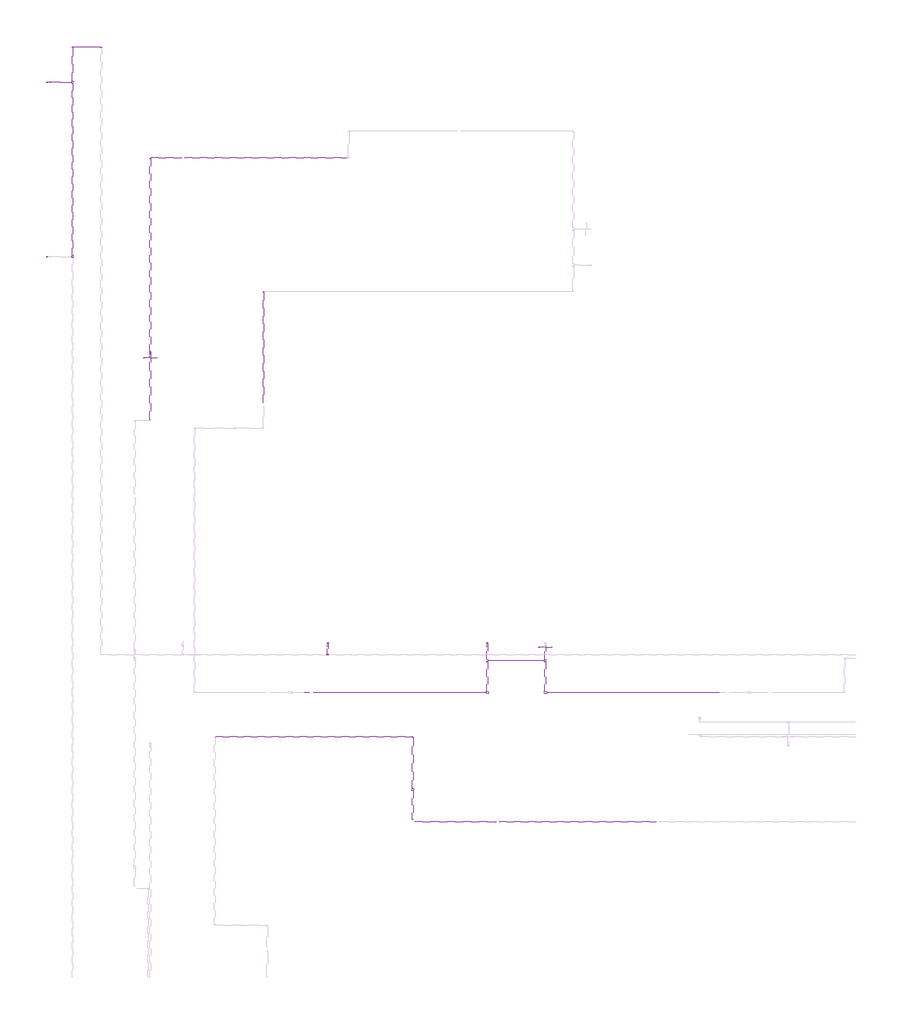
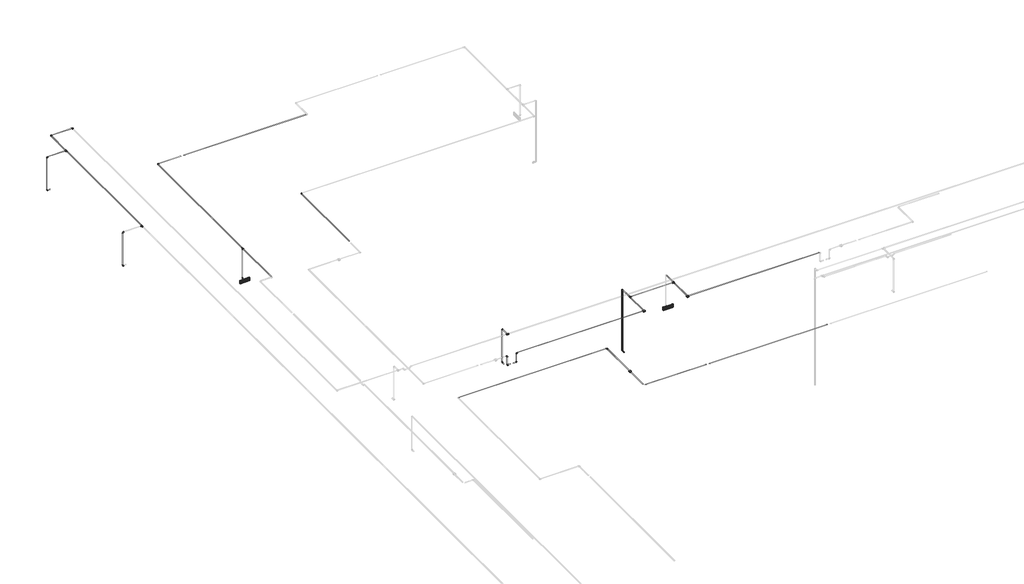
# One storey, part 5 of 13: 35 cable carrier segments, 24 cable carrier fittings, 5 alarms.
"""IFC4 building model written with IfcOpenShell, lengths in millimetres."""

from ifc_helpers import new_model, si_unit, point, frame, frame_2d, origin, place, context, project, spatial, circle_curve, trimmed, segment, composite_curve, outline, extrude, transform, mapped, element, save
from components import alarm_4b7e8fd8, alarm_a2247946, cable_carrier_fitting_69f1a801, cable_carrier_fitting_8fd13dfc

model = new_model("IFC4")

# Units and contexts
model_context = context("Model", 3, world=origin())
ifc_project = project(units=[si_unit("LENGTHUNIT", "METRE", prefix="MILLI")], contexts=[model_context])

# Site, building, storey
site = spatial("IfcSite", under=ifc_project)
building = spatial("IfcBuilding", under=site)
storey = spatial("IfcBuildingStorey", under=building, Name="2 этаж", Elevation=3500.0)

# Alarms
placement = place(None, origin())
alarm_shape = alarm_4b7e8fd8(model_context)
element("IfcAlarm", 1, ObjectType="RBZ_Оповещатель_Световой_Рубеж_ОПОП1-R3(грань) : ОПОП 1-R3 \"Выход\"", at=placement, inside=storey, context=model_context, shape_type="MappedRepresentation", body=[
    mapped(alarm_shape, transform((-26367.3240021, 6224.6370105, 6000.0), x_axis=(1.0, 0.0, 0.0), y_axis=(0.0, 0.0, 1.0), z_axis=(0.0, -1.0, 0.0))),
])
element("IfcAlarm", 2, ObjectType="RBZ_Оповещатель_Световой_Рубеж_ОПОП1-R3(грань) : ОПОП 1-R3 \"Выход\"", at=placement, inside=storey, context=model_context, shape_type="MappedRepresentation", body=[
    mapped(alarm_shape, transform((-35529.8240021, 12944.6370105, 6000.0), x_axis=(1.0, 0.0, 0.0), y_axis=(0.0, 0.0, 1.0), z_axis=(0.0, -1.0, 0.0))),
])
alarm_2_shape = alarm_a2247946(model_context)
element("IfcAlarm", 3, ObjectType="RBZ_ИзоляторШлейфа_Рубеж_ИЗ-1_прот.R3(плоскость) : ИЗ-1 прот.R3", at=placement, inside=storey, context=model_context, shape_type="MappedRepresentation", body=[
    mapped(alarm_2_shape, transform((-29443.3240021, 2912.1370105, 6997.7), x_axis=(1.0, 0.0, 0.0), y_axis=(0.0, 1.0, 0.0), z_axis=(0.0, 0.0, 1.0))),
])
element("IfcAlarm", 4, ObjectType="RBZ_ИзоляторШлейфа_Рубеж_ИЗ-1_прот.R3(плоскость) : ИЗ-1 прот.R3", at=placement, inside=storey, context=model_context, shape_type="MappedRepresentation", body=[
    mapped(alarm_2_shape, transform((-27718.2686424, 5164.6370105, 6997.7), x_axis=(1.0, 0.0, 0.0), y_axis=(0.0, 1.0, 0.0), z_axis=(0.0, 0.0, 1.0))),
])
element("IfcAlarm", 5, ObjectType="RBZ_ИзоляторШлейфа_Рубеж_ИЗ-1_прот.R3(плоскость) : ИЗ-1 прот.R3", at=placement, inside=storey, context=model_context, shape_type="MappedRepresentation", body=[
    mapped(alarm_2_shape, transform((-26367.3240021, 5164.6370105, 6997.7), x_axis=(1.0, 0.0, 0.0), y_axis=(0.0, 1.0, 0.0), z_axis=(0.0, 0.0, 1.0))),
])

# Cable carrier fittings
cable_carrier_fitting_shape = cable_carrier_fitting_69f1a801(model_context)
element("IfcCableCarrierFitting", 6, ObjectType="ADSK_Поворот_Минимальный размер : Неспецифицируемый", at=placement, inside=storey, context=model_context, shape_type="MappedRepresentation", body=[
    mapped(cable_carrier_fitting_shape, transform((-35529.8240021, 17569.6370105, 6986.95), x_axis=(-1.0, 0.0, 0.0), y_axis=(0.0, -1.0, 0.0), z_axis=(0.0, 0.0, 1.0))),
])
element("IfcCableCarrierFitting", 7, ObjectType="ADSK_Поворот_Минимальный размер : Неспецифицируемый", at=placement, inside=storey, context=model_context, shape_type="MappedRepresentation", body=[
    mapped(cable_carrier_fitting_shape, transform((-32907.3240021, 14465.9311629, 6986.95), x_axis=(-1.0, 0.0, 0.0), y_axis=(0.0, -1.0, 0.0), z_axis=(0.0, 0.0, 1.0))),
])
element("IfcCableCarrierFitting", 8, ObjectType="ADSK_Поворот_Минимальный размер : Неспецифицируемый", at=placement, inside=storey, context=model_context, shape_type="MappedRepresentation", body=[
    mapped(cable_carrier_fitting_shape, transform((-29443.3240021, 4135.4271104, 6986.95), x_axis=(0.0, 1.0, 0.0), y_axis=(-1.0, 0.0, 0.0), z_axis=(0.0, 0.0, 1.0))),
])
element("IfcCableCarrierFitting", 9, ObjectType="ADSK_Поворот_Минимальный размер : Неспецифицируемый", at=placement, inside=storey, context=model_context, shape_type="MappedRepresentation", body=[
    mapped(cable_carrier_fitting_shape, transform((-31926.5002231, 5164.6370105, 6691.5753772), x_axis=(-1.0, 0.0, 0.0), y_axis=(0.0, 0.0, 1.0), z_axis=(0.0, 1.0, 0.0))),
])
element("IfcCableCarrierFitting", 10, ObjectType="ADSK_Поворот_Минимальный размер : Неспецифицируемый", at=placement, inside=storey, context=model_context, shape_type="MappedRepresentation", body=[
    mapped(cable_carrier_fitting_shape, transform((-31926.5002231, 5164.6370105, 6986.95), x_axis=(0.0, 0.0, 1.0), y_axis=(-1.0, 0.0, 0.0), z_axis=(0.0, -1.0, 0.0))),
])
element("IfcCableCarrierFitting", 11, ObjectType="ADSK_Поворот_Минимальный размер : Неспецифицируемый", at=placement, inside=storey, context=model_context, shape_type="MappedRepresentation", body=[
    mapped(cable_carrier_fitting_shape, transform((-31639.1006119, 5164.6370105, 6691.5753772), x_axis=(1.0, 0.0, 0.0), y_axis=(0.0, 0.0, 1.0), z_axis=(0.0, -1.0, 0.0))),
])
element("IfcCableCarrierFitting", 12, ObjectType="ADSK_Поворот_Минимальный размер : Неспецифицируемый", at=placement, inside=storey, context=model_context, shape_type="MappedRepresentation", body=[
    mapped(cable_carrier_fitting_shape, transform((-31639.1006119, 5164.6370105, 6986.95), x_axis=(0.0, 0.0, 1.0), y_axis=(1.0, 0.0, 0.0), z_axis=(0.0, 1.0, 0.0))),
])
element("IfcCableCarrierFitting", 13, ObjectType="ADSK_Поворот_Минимальный размер : Неспецифицируемый", at=placement, inside=storey, context=model_context, shape_type="MappedRepresentation", body=[
    mapped(cable_carrier_fitting_shape, transform((-37337.3240021, 20139.6370105, 6990.0), x_axis=(-1.0, 0.0, 0.0), y_axis=(0.0, -1.0, 0.0), z_axis=(0.0, 0.0, 1.0))),
])
element("IfcCableCarrierFitting", 14, ObjectType="ADSK_Поворот_Минимальный размер : Неспецифицируемый", at=placement, inside=storey, context=model_context, shape_type="MappedRepresentation", body=[
    mapped(cable_carrier_fitting_shape, transform((-36669.8240021, 20139.6370105, 6990.0), x_axis=(0.0, 1.0, 0.0), y_axis=(-1.0, 0.0, 0.0), z_axis=(0.0, 0.0, 1.0))),
])
element("IfcCableCarrierFitting", 15, ObjectType="ADSK_Поворот_Минимальный размер : Неспецифицируемый", at=placement, inside=storey, context=model_context, shape_type="MappedRepresentation", body=[
    mapped(cable_carrier_fitting_shape, transform((-37929.5238077, 15277.1370105, 5897.4861504), x_axis=(-1.0, 0.0, 0.0), y_axis=(0.0, 0.0, 1.0), z_axis=(0.0, 1.0, 0.0))),
])
element("IfcCableCarrierFitting", 16, ObjectType="ADSK_Поворот_Минимальный размер : Неспецифицируемый", at=placement, inside=storey, context=model_context, shape_type="MappedRepresentation", body=[
    mapped(cable_carrier_fitting_shape, transform((-37929.5238077, 15277.1370105, 6990.0), x_axis=(0.0, 0.0, 1.0), y_axis=(1.0, 0.0, 0.0), z_axis=(0.0, 1.0, 0.0))),
])
element("IfcCableCarrierFitting", 17, ObjectType="ADSK_Поворот_Минимальный размер : Неспецифицируемый", at=placement, inside=storey, context=model_context, shape_type="MappedRepresentation", body=[
    mapped(cable_carrier_fitting_shape, transform((-37929.5238077, 19319.6370105, 5897.4861504), x_axis=(-1.0, 0.0, 0.0), y_axis=(0.0, 0.0, 1.0), z_axis=(0.0, 1.0, 0.0))),
])
element("IfcCableCarrierFitting", 18, ObjectType="ADSK_Поворот_Минимальный размер : Неспецифицируемый", at=placement, inside=storey, context=model_context, shape_type="MappedRepresentation", body=[
    mapped(cable_carrier_fitting_shape, transform((-37929.5238077, 19319.6370105, 6990.0), x_axis=(0.0, 0.0, 1.0), y_axis=(1.0, 0.0, 0.0), z_axis=(0.0, 1.0, 0.0))),
])
element("IfcCableCarrierFitting", 19, ObjectType="ADSK_Поворот_Минимальный размер : Неспецифицируемый", at=placement, inside=storey, context=model_context, shape_type="MappedRepresentation", body=[
    mapped(cable_carrier_fitting_shape, transform((-31412.3240021, 6321.8368161, 5897.4861504), x_axis=(0.0, 1.0, 0.0), y_axis=(0.0, 0.0, 1.0), z_axis=(1.0, 0.0, 0.0))),
])
element("IfcCableCarrierFitting", 20, ObjectType="ADSK_Поворот_Минимальный размер : Неспецифицируемый", at=placement, inside=storey, context=model_context, shape_type="MappedRepresentation", body=[
    mapped(cable_carrier_fitting_shape, transform((-31412.3240021, 6321.8368161, 6990.0), x_axis=(0.0, 0.0, 1.0), y_axis=(0.0, -1.0, 0.0), z_axis=(1.0, 0.0, 0.0))),
])
element("IfcCableCarrierFitting", 21, ObjectType="ADSK_Поворот_Минимальный размер : Неспецифицируемый", at=placement, inside=storey, context=model_context, shape_type="MappedRepresentation", body=[
    mapped(cable_carrier_fitting_shape, transform((-27718.2686424, 6321.8368161, 5000.0), x_axis=(0.0, 1.0, 0.0), y_axis=(0.0, 0.0, 1.0), z_axis=(1.0, 0.0, 0.0))),
])
element("IfcCableCarrierFitting", 22, ObjectType="ADSK_Поворот_Минимальный размер : Неспецифицируемый", at=placement, inside=storey, context=model_context, shape_type="MappedRepresentation", body=[
    mapped(cable_carrier_fitting_shape, transform((-27718.2686424, 6321.8368161, 6986.95), x_axis=(0.0, 0.0, 1.0), y_axis=(0.0, -1.0, 0.0), z_axis=(1.0, 0.0, 0.0))),
])
element("IfcCableCarrierFitting", 23, ObjectType="ADSK_Поворот_Минимальный размер : Неспецифицируемый", at=placement, inside=storey, context=model_context, shape_type="MappedRepresentation", body=[
    mapped(cable_carrier_fitting_shape, transform((-35529.8240021, 13041.8368161, 6000.0), x_axis=(0.0, 1.0, 0.0), y_axis=(0.0, 0.0, 1.0), z_axis=(1.0, 0.0, 0.0))),
])
cable_carrier_fitting_2_shape = cable_carrier_fitting_8fd13dfc(model_context)
element("IfcCableCarrierFitting", 24, ObjectType="ADSK_Тройник : ПВХ", at=placement, inside=storey, context=model_context, shape_type="MappedRepresentation", body=[
    mapped(cable_carrier_fitting_2_shape, transform((-27718.2686424, 5907.6135901, 6986.95), x_axis=(0.0, 1.0, 0.0), y_axis=(-1.0, 0.0, 0.0), z_axis=(0.0, 0.0, 1.0))),
])
element("IfcCableCarrierFitting", 25, ObjectType="ADSK_Тройник : ПВХ", at=placement, inside=storey, context=model_context, shape_type="MappedRepresentation", body=[
    mapped(cable_carrier_fitting_2_shape, transform((-26367.3240021, 5907.6135901, 6986.95), x_axis=(0.0, -1.0, 0.0), y_axis=(1.0, 0.0, 0.0), z_axis=(0.0, 0.0, 1.0))),
])
element("IfcCableCarrierFitting", 26, ObjectType="ADSK_Тройник : ПВХ", at=placement, inside=storey, context=model_context, shape_type="MappedRepresentation", body=[
    mapped(cable_carrier_fitting_2_shape, transform((-37337.3240021, 15277.1370105, 6990.0), x_axis=(0.0, -1.0, 0.0), y_axis=(1.0, 0.0, 0.0), z_axis=(0.0, 0.0, 1.0))),
])
element("IfcCableCarrierFitting", 27, ObjectType="ADSK_Тройник : ПВХ", at=placement, inside=storey, context=model_context, shape_type="MappedRepresentation", body=[
    mapped(cable_carrier_fitting_2_shape, transform((-37337.3240021, 19319.6370105, 6990.0), x_axis=(0.0, -1.0, 0.0), y_axis=(1.0, 0.0, 0.0), z_axis=(0.0, 0.0, 1.0))),
])
element("IfcCableCarrierFitting", 28, ObjectType="ADSK_Тройник : ПВХ", at=placement, inside=storey, context=model_context, shape_type="MappedRepresentation", body=[
    mapped(cable_carrier_fitting_2_shape, transform((-31412.3240021, 6037.6221207, 6990.0), x_axis=(-1.0, 0.0, 0.0), y_axis=(0.0, -1.0, 0.0), z_axis=(0.0, 0.0, 1.0))),
])
element("IfcCableCarrierFitting", 29, ObjectType="ADSK_Тройник : ПВХ", at=placement, inside=storey, context=model_context, shape_type="MappedRepresentation", body=[
    mapped(cable_carrier_fitting_2_shape, transform((-35529.8240021, 13041.8368161, 6986.95), x_axis=(0.0, 1.0, 0.0), y_axis=(0.0, 0.0, 1.0), z_axis=(1.0, 0.0, 0.0))),
])

# Cable carrier segments
element("IfcCableCarrierSegment", 30, ObjectType="Гофрированная труба", at=placement, inside=storey, context=model_context, shape_type="SweptSolid", body=[
    extrude(outline(composite_curve([segment(trimmed(circle_curve(frame_2d((6986.95, -29443.3240021)), 10.0), [point((6986.95, -29433.3240021))], [point((6996.95, -29443.3240021))], False, "CARTESIAN"), True, "CONTINUOUS"), segment(trimmed(circle_curve(frame_2d((6986.95, -29443.3240021)), 10.0), [point((6996.95, -29443.3240021))], [point((6986.95, -29453.3240021))], False, "CARTESIAN"), True, "CONTINUOUS"), segment(trimmed(circle_curve(frame_2d((6986.95, -29443.3240021)), 10.0), [point((6986.95, -29453.3240021))], [point((6976.95, -29443.3240021))], False, "CARTESIAN"), True, "CONTINUOUS"), segment(trimmed(circle_curve(frame_2d((6986.95, -29443.3240021)), 10.0), [point((6976.95, -29443.3240021))], [point((6986.95, -29433.3240021))], False, "CARTESIAN"), True, "CONTINUOUS")], self_intersect=False)), frame((0.0, 2938.1370105, 0.0), z_axis=(0.0, 1.0, 0.0), x_axis=(0.0, 0.0, 1.0)), (0.0, 0.0, 1.0), 1176.2900999),
])
element("IfcCableCarrierSegment", 31, ObjectType="Гофрированная труба", at=placement, inside=storey, context=model_context, shape_type="SweptSolid", body=[
    extrude(outline(composite_curve([segment(trimmed(circle_curve(frame_2d((6986.95, -29443.3240021)), 10.0), [point((6986.95, -29433.3240021))], [point((6996.95, -29443.3240021))], False, "CARTESIAN"), True, "CONTINUOUS"), segment(trimmed(circle_curve(frame_2d((6986.95, -29443.3240021)), 10.0), [point((6996.95, -29443.3240021))], [point((6986.95, -29453.3240021))], False, "CARTESIAN"), True, "CONTINUOUS"), segment(trimmed(circle_curve(frame_2d((6986.95, -29443.3240021)), 10.0), [point((6986.95, -29453.3240021))], [point((6976.95, -29443.3240021))], False, "CARTESIAN"), True, "CONTINUOUS"), segment(trimmed(circle_curve(frame_2d((6986.95, -29443.3240021)), 10.0), [point((6976.95, -29443.3240021))], [point((6986.95, -29433.3240021))], False, "CARTESIAN"), True, "CONTINUOUS")], self_intersect=False)), frame((0.0, 2211.1370105, 0.0), z_axis=(0.0, 1.0, 0.0), x_axis=(0.0, 0.0, 1.0)), (0.0, 0.0, 1.0), 675.0),
])
element("IfcCableCarrierSegment", 32, ObjectType="Гофрированная труба", at=placement, inside=storey, context=model_context, shape_type="SweptSolid", body=[
    extrude(outline(composite_curve([segment(trimmed(circle_curve(frame_2d((2164.6370105, 6986.95)), 10.0), [point((2174.6370105, 6986.95))], [point((2164.6370105, 6976.95))], False, "CARTESIAN"), True, "CONTINUOUS"), segment(trimmed(circle_curve(frame_2d((2164.6370105, 6986.95)), 10.0), [point((2164.6370105, 6976.95))], [point((2154.6370105, 6986.95))], False, "CARTESIAN"), True, "CONTINUOUS"), segment(trimmed(circle_curve(frame_2d((2164.6370105, 6986.95)), 10.0), [point((2154.6370105, 6986.95))], [point((2164.6370105, 6996.95))], False, "CARTESIAN"), True, "CONTINUOUS"), segment(trimmed(circle_curve(frame_2d((2164.6370105, 6986.95)), 10.0), [point((2164.6370105, 6996.95))], [point((2174.6370105, 6986.95))], False, "CARTESIAN"), True, "CONTINUOUS")], self_intersect=False)), frame((-29396.8240021, 0.0, 0.0), z_axis=(1.0, 0.0, 0.0), x_axis=(0.0, 1.0, 0.0)), (0.0, 0.0, 1.0), 1873.0),
])
element("IfcCableCarrierSegment", 33, ObjectType="Гофрированная труба", at=placement, inside=storey, context=model_context, shape_type="SweptSolid", body=[
    extrude(outline(composite_curve([segment(trimmed(circle_curve(frame_2d((2164.6370105, 6986.95)), 10.0), [point((2174.6370105, 6986.95))], [point((2164.6370105, 6976.95))], False, "CARTESIAN"), True, "CONTINUOUS"), segment(trimmed(circle_curve(frame_2d((2164.6370105, 6986.95)), 10.0), [point((2164.6370105, 6976.95))], [point((2154.6370105, 6986.95))], False, "CARTESIAN"), True, "CONTINUOUS"), segment(trimmed(circle_curve(frame_2d((2164.6370105, 6986.95)), 10.0), [point((2154.6370105, 6986.95))], [point((2164.6370105, 6996.95))], False, "CARTESIAN"), True, "CONTINUOUS"), segment(trimmed(circle_curve(frame_2d((2164.6370105, 6986.95)), 10.0), [point((2164.6370105, 6996.95))], [point((2174.6370105, 6986.95))], False, "CARTESIAN"), True, "CONTINUOUS")], self_intersect=False)), frame((-27430.8240021, 0.0, 0.0), z_axis=(1.0, 0.0, 0.0), x_axis=(0.0, 1.0, 0.0)), (0.0, 0.0, 1.0), 3632.0),
])
element("IfcCableCarrierSegment", 34, ObjectType="Гофрированная труба", at=placement, inside=storey, context=model_context, shape_type="SweptSolid", body=[
    extrude(outline(composite_curve([segment(trimmed(circle_curve(frame_2d((17569.6370105, 6986.95)), 10.0), [point((17559.6370105, 6986.95))], [point((17569.6370105, 6996.95))], False, "CARTESIAN"), True, "CONTINUOUS"), segment(trimmed(circle_curve(frame_2d((17569.6370105, 6986.95)), 10.0), [point((17569.6370105, 6996.95))], [point((17579.6370105, 6986.95))], False, "CARTESIAN"), True, "CONTINUOUS"), segment(trimmed(circle_curve(frame_2d((17569.6370105, 6986.95)), 10.0), [point((17579.6370105, 6986.95))], [point((17569.6370105, 6976.95))], False, "CARTESIAN"), True, "CONTINUOUS"), segment(trimmed(circle_curve(frame_2d((17569.6370105, 6986.95)), 10.0), [point((17569.6370105, 6976.95))], [point((17559.6370105, 6986.95))], False, "CARTESIAN"), True, "CONTINUOUS")], self_intersect=False)), frame((-35508.8240021, 0.0, 0.0), z_axis=(1.0, 0.0, 0.0), x_axis=(0.0, 1.0, 0.0)), (0.0, 0.0, 1.0), 690.0),
])
element("IfcCableCarrierSegment", 35, ObjectType="Гофрированная труба", at=placement, inside=storey, context=model_context, shape_type="SweptSolid", body=[
    extrude(outline(composite_curve([segment(trimmed(circle_curve(frame_2d((17569.6370105, 6986.95)), 10.0), [point((17559.6370105, 6986.95))], [point((17569.6370105, 6996.95))], False, "CARTESIAN"), True, "CONTINUOUS"), segment(trimmed(circle_curve(frame_2d((17569.6370105, 6986.95)), 10.0), [point((17569.6370105, 6996.95))], [point((17579.6370105, 6986.95))], False, "CARTESIAN"), True, "CONTINUOUS"), segment(trimmed(circle_curve(frame_2d((17569.6370105, 6986.95)), 10.0), [point((17579.6370105, 6986.95))], [point((17569.6370105, 6976.95))], False, "CARTESIAN"), True, "CONTINUOUS"), segment(trimmed(circle_curve(frame_2d((17569.6370105, 6986.95)), 10.0), [point((17569.6370105, 6976.95))], [point((17559.6370105, 6986.95))], False, "CARTESIAN"), True, "CONTINUOUS")], self_intersect=False)), frame((-34725.8240021, 0.0, 0.0), z_axis=(1.0, 0.0, 0.0), x_axis=(0.0, 1.0, 0.0)), (0.0, 0.0, 1.0), 3779.0),
])
element("IfcCableCarrierSegment", 36, ObjectType="Гофрированная труба", at=placement, inside=storey, context=model_context, shape_type="SweptSolid", body=[
    extrude(outline(composite_curve([segment(trimmed(circle_curve(frame_2d((6986.95, -32907.3240021)), 10.0), [point((6986.95, -32897.3240021))], [point((6996.95, -32907.3240021))], False, "CARTESIAN"), True, "CONTINUOUS"), segment(trimmed(circle_curve(frame_2d((6986.95, -32907.3240021)), 10.0), [point((6996.95, -32907.3240021))], [point((6986.95, -32917.3240021))], False, "CARTESIAN"), True, "CONTINUOUS"), segment(trimmed(circle_curve(frame_2d((6986.95, -32907.3240021)), 10.0), [point((6986.95, -32917.3240021))], [point((6976.95, -32907.3240021))], False, "CARTESIAN"), True, "CONTINUOUS"), segment(trimmed(circle_curve(frame_2d((6986.95, -32907.3240021)), 10.0), [point((6976.95, -32907.3240021))], [point((6986.95, -32897.3240021))], False, "CARTESIAN"), True, "CONTINUOUS")], self_intersect=False)), frame((0.0, 11891.1370105, 0.0), z_axis=(0.0, 1.0, 0.0), x_axis=(0.0, 0.0, 1.0)), (0.0, 0.0, 1.0), 2553.7941524),
])
element("IfcCableCarrierSegment", 37, ObjectType="Гофрированная труба", at=placement, inside=storey, context=model_context, shape_type="SweptSolid", body=[
    extrude(outline(composite_curve([segment(trimmed(circle_curve(frame_2d((4135.4271104, 6986.95)), 10.0), [point((4145.4271104, 6986.95))], [point((4135.4271104, 6976.95))], False, "CARTESIAN"), True, "CONTINUOUS"), segment(trimmed(circle_curve(frame_2d((4135.4271104, 6986.95)), 10.0), [point((4135.4271104, 6976.95))], [point((4125.4271104, 6986.95))], False, "CARTESIAN"), True, "CONTINUOUS"), segment(trimmed(circle_curve(frame_2d((4135.4271104, 6986.95)), 10.0), [point((4125.4271104, 6986.95))], [point((4135.4271104, 6996.95))], False, "CARTESIAN"), True, "CONTINUOUS"), segment(trimmed(circle_curve(frame_2d((4135.4271104, 6986.95)), 10.0), [point((4135.4271104, 6996.95))], [point((4145.4271104, 6986.95))], False, "CARTESIAN"), True, "CONTINUOUS")], self_intersect=False)), frame((-34016.3240021, 0.0, 0.0), z_axis=(1.0, 0.0, 0.0), x_axis=(0.0, 1.0, 0.0)), (0.0, 0.0, 1.0), 4552.0),
])
element("IfcCableCarrierSegment", 38, ObjectType="Гофрированная труба", at=placement, inside=storey, context=model_context, shape_type="SweptSolid", body=[
    extrude(outline(composite_curve([segment(trimmed(circle_curve(frame_2d((5164.6370105, 6691.5753772)), 10.0), [point((5174.6370105, 6691.5753772))], [point((5164.6370105, 6681.5753772))], False, "CARTESIAN"), True, "CONTINUOUS"), segment(trimmed(circle_curve(frame_2d((5164.6370105, 6691.5753772)), 10.0), [point((5164.6370105, 6681.5753772))], [point((5154.6370105, 6691.5753772))], False, "CARTESIAN"), True, "CONTINUOUS"), segment(trimmed(circle_curve(frame_2d((5164.6370105, 6691.5753772)), 10.0), [point((5154.6370105, 6691.5753772))], [point((5164.6370105, 6701.5753772))], False, "CARTESIAN"), True, "CONTINUOUS"), segment(trimmed(circle_curve(frame_2d((5164.6370105, 6691.5753772)), 10.0), [point((5164.6370105, 6701.5753772))], [point((5174.6370105, 6691.5753772))], False, "CARTESIAN"), True, "CONTINUOUS")], self_intersect=False)), frame((-31905.5002231, 0.0, 0.0), z_axis=(1.0, 0.0, 0.0), x_axis=(0.0, 1.0, 0.0)), (0.0, 0.0, 1.0), 76.1998056),
])
element("IfcCableCarrierSegment", 39, ObjectType="Гофрированная труба", at=placement, inside=storey, context=model_context, shape_type="SweptSolid", body=[
    extrude(outline(composite_curve([segment(trimmed(circle_curve(frame_2d((-31926.5002231, 5164.6370105)), 10.0), [point((-31936.5002231, 5164.6370105))], [point((-31926.5002231, 5174.6370105))], False, "CARTESIAN"), True, "CONTINUOUS"), segment(trimmed(circle_curve(frame_2d((-31926.5002231, 5164.6370105)), 10.0), [point((-31926.5002231, 5174.6370105))], [point((-31916.5002231, 5164.6370105))], False, "CARTESIAN"), True, "CONTINUOUS"), segment(trimmed(circle_curve(frame_2d((-31926.5002231, 5164.6370105)), 10.0), [point((-31916.5002231, 5164.6370105))], [point((-31926.5002231, 5154.6370105))], False, "CARTESIAN"), True, "CONTINUOUS"), segment(trimmed(circle_curve(frame_2d((-31926.5002231, 5164.6370105)), 10.0), [point((-31926.5002231, 5154.6370105))], [point((-31936.5002231, 5164.6370105))], False, "CARTESIAN"), True, "CONTINUOUS")], self_intersect=False)), frame((0.0, 0.0, 6712.5753772), z_axis=(0.0, 0.0, 1.0), x_axis=(1.0, 0.0, 0.0)), (0.0, 0.0, 1.0), 253.3746228),
])
element("IfcCableCarrierSegment", 40, ObjectType="Гофрированная труба", at=placement, inside=storey, context=model_context, shape_type="SweptSolid", body=[
    extrude(outline(composite_curve([segment(trimmed(circle_curve(frame_2d((5164.6370105, 6986.95)), 10.0), [point((5154.6370105, 6986.95))], [point((5164.6370105, 6996.95))], False, "CARTESIAN"), True, "CONTINUOUS"), segment(trimmed(circle_curve(frame_2d((5164.6370105, 6986.95)), 10.0), [point((5164.6370105, 6996.95))], [point((5174.6370105, 6986.95))], False, "CARTESIAN"), True, "CONTINUOUS"), segment(trimmed(circle_curve(frame_2d((5164.6370105, 6986.95)), 10.0), [point((5174.6370105, 6986.95))], [point((5164.6370105, 6976.95))], False, "CARTESIAN"), True, "CONTINUOUS"), segment(trimmed(circle_curve(frame_2d((5164.6370105, 6986.95)), 10.0), [point((5164.6370105, 6976.95))], [point((5154.6370105, 6986.95))], False, "CARTESIAN"), True, "CONTINUOUS")], self_intersect=False)), frame((-31618.1006119, 0.0, 0.0), z_axis=(1.0, 0.0, 0.0), x_axis=(0.0, 1.0, 0.0)), (0.0, 0.0, 1.0), 3873.8319696),
])
element("IfcCableCarrierSegment", 41, ObjectType="Гофрированная труба", at=placement, inside=storey, context=model_context, shape_type="SweptSolid", body=[
    extrude(outline(composite_curve([segment(trimmed(circle_curve(frame_2d((5164.6370105, 6691.5753772)), 10.0), [point((5154.6370105, 6691.5753772))], [point((5164.6370105, 6701.5753772))], False, "CARTESIAN"), True, "CONTINUOUS"), segment(trimmed(circle_curve(frame_2d((5164.6370105, 6691.5753772)), 10.0), [point((5164.6370105, 6701.5753772))], [point((5174.6370105, 6691.5753772))], False, "CARTESIAN"), True, "CONTINUOUS"), segment(trimmed(circle_curve(frame_2d((5164.6370105, 6691.5753772)), 10.0), [point((5174.6370105, 6691.5753772))], [point((5164.6370105, 6681.5753772))], False, "CARTESIAN"), True, "CONTINUOUS"), segment(trimmed(circle_curve(frame_2d((5164.6370105, 6691.5753772)), 10.0), [point((5164.6370105, 6681.5753772))], [point((5154.6370105, 6691.5753772))], False, "CARTESIAN"), True, "CONTINUOUS")], self_intersect=False)), frame((-31736.3004175, 0.0, 0.0), z_axis=(1.0, 0.0, 0.0), x_axis=(0.0, 1.0, 0.0)), (0.0, 0.0, 1.0), 76.1998056),
])
element("IfcCableCarrierSegment", 42, ObjectType="Гофрированная труба", at=placement, inside=storey, context=model_context, shape_type="SweptSolid", body=[
    extrude(outline(composite_curve([segment(trimmed(circle_curve(frame_2d((-31639.1006119, 5164.6370105)), 10.0), [point((-31649.1006119, 5164.6370105))], [point((-31639.1006119, 5174.6370105))], False, "CARTESIAN"), True, "CONTINUOUS"), segment(trimmed(circle_curve(frame_2d((-31639.1006119, 5164.6370105)), 10.0), [point((-31639.1006119, 5174.6370105))], [point((-31629.1006119, 5164.6370105))], False, "CARTESIAN"), True, "CONTINUOUS"), segment(trimmed(circle_curve(frame_2d((-31639.1006119, 5164.6370105)), 10.0), [point((-31629.1006119, 5164.6370105))], [point((-31639.1006119, 5154.6370105))], False, "CARTESIAN"), True, "CONTINUOUS"), segment(trimmed(circle_curve(frame_2d((-31639.1006119, 5164.6370105)), 10.0), [point((-31639.1006119, 5154.6370105))], [point((-31649.1006119, 5164.6370105))], False, "CARTESIAN"), True, "CONTINUOUS")], self_intersect=False)), frame((0.0, 0.0, 6712.5753772), z_axis=(0.0, 0.0, 1.0), x_axis=(1.0, 0.0, 0.0)), (0.0, 0.0, 1.0), 253.3746228),
])
element("IfcCableCarrierSegment", 43, ObjectType="Гофрированная труба", at=placement, inside=storey, context=model_context, shape_type="SweptSolid", body=[
    extrude(outline(composite_curve([segment(trimmed(circle_curve(frame_2d((6986.95, -27718.2686424)), 10.0), [point((6986.95, -27728.2686424))], [point((6976.95, -27718.2686424))], False, "CARTESIAN"), True, "CONTINUOUS"), segment(trimmed(circle_curve(frame_2d((6986.95, -27718.2686424)), 10.0), [point((6976.95, -27718.2686424))], [point((6986.95, -27708.2686424))], False, "CARTESIAN"), True, "CONTINUOUS"), segment(trimmed(circle_curve(frame_2d((6986.95, -27718.2686424)), 10.0), [point((6986.95, -27708.2686424))], [point((6996.95, -27718.2686424))], False, "CARTESIAN"), True, "CONTINUOUS"), segment(trimmed(circle_curve(frame_2d((6986.95, -27718.2686424)), 10.0), [point((6996.95, -27718.2686424))], [point((6986.95, -27728.2686424))], False, "CARTESIAN"), True, "CONTINUOUS")], self_intersect=False)), frame((0.0, 5190.6370105, 0.0), z_axis=(0.0, 1.0, 0.0), x_axis=(0.0, 0.0, 1.0)), (0.0, 0.0, 1.0), 686.9765796),
])
element("IfcCableCarrierSegment", 44, ObjectType="Гофрированная труба", at=placement, inside=storey, context=model_context, shape_type="SweptSolid", body=[
    extrude(outline(composite_curve([segment(trimmed(circle_curve(frame_2d((6986.95, -26367.3240021)), 10.0), [point((6986.95, -26377.3240021))], [point((6976.95, -26367.3240021))], False, "CARTESIAN"), True, "CONTINUOUS"), segment(trimmed(circle_curve(frame_2d((6986.95, -26367.3240021)), 10.0), [point((6976.95, -26367.3240021))], [point((6986.95, -26357.3240021))], False, "CARTESIAN"), True, "CONTINUOUS"), segment(trimmed(circle_curve(frame_2d((6986.95, -26367.3240021)), 10.0), [point((6986.95, -26357.3240021))], [point((6996.95, -26367.3240021))], False, "CARTESIAN"), True, "CONTINUOUS"), segment(trimmed(circle_curve(frame_2d((6986.95, -26367.3240021)), 10.0), [point((6996.95, -26367.3240021))], [point((6986.95, -26377.3240021))], False, "CARTESIAN"), True, "CONTINUOUS")], self_intersect=False)), frame((0.0, 5190.6370105, 0.0), z_axis=(0.0, 1.0, 0.0), x_axis=(0.0, 0.0, 1.0)), (0.0, 0.0, 1.0), 686.9765796),
])
element("IfcCableCarrierSegment", 45, ObjectType="Гофрированная труба", at=placement, inside=storey, context=model_context, shape_type="SweptSolid", body=[
    extrude(outline(composite_curve([segment(trimmed(circle_curve(frame_2d((5907.6135901, 6986.95)), 10.0), [point((5917.6135901, 6986.95))], [point((5907.6135901, 6976.95))], False, "CARTESIAN"), True, "CONTINUOUS"), segment(trimmed(circle_curve(frame_2d((5907.6135901, 6986.95)), 10.0), [point((5907.6135901, 6976.95))], [point((5897.6135901, 6986.95))], False, "CARTESIAN"), True, "CONTINUOUS"), segment(trimmed(circle_curve(frame_2d((5907.6135901, 6986.95)), 10.0), [point((5897.6135901, 6986.95))], [point((5907.6135901, 6996.95))], False, "CARTESIAN"), True, "CONTINUOUS"), segment(trimmed(circle_curve(frame_2d((5907.6135901, 6986.95)), 10.0), [point((5907.6135901, 6996.95))], [point((5917.6135901, 6986.95))], False, "CARTESIAN"), True, "CONTINUOUS")], self_intersect=False)), frame((-27688.2686424, 0.0, 0.0), z_axis=(1.0, 0.0, 0.0), x_axis=(0.0, 1.0, 0.0)), (0.0, 0.0, 1.0), 1290.9446403),
])
element("IfcCableCarrierSegment", 46, ObjectType="Гофрированная труба", at=placement, inside=storey, context=model_context, shape_type="SweptSolid", body=[
    extrude(outline(composite_curve([segment(trimmed(circle_curve(frame_2d((5164.6370105, 6986.95)), 10.0), [point((5154.6370105, 6986.95))], [point((5164.6370105, 6996.95))], False, "CARTESIAN"), True, "CONTINUOUS"), segment(trimmed(circle_curve(frame_2d((5164.6370105, 6986.95)), 10.0), [point((5164.6370105, 6996.95))], [point((5174.6370105, 6986.95))], False, "CARTESIAN"), True, "CONTINUOUS"), segment(trimmed(circle_curve(frame_2d((5164.6370105, 6986.95)), 10.0), [point((5174.6370105, 6986.95))], [point((5164.6370105, 6976.95))], False, "CARTESIAN"), True, "CONTINUOUS"), segment(trimmed(circle_curve(frame_2d((5164.6370105, 6986.95)), 10.0), [point((5164.6370105, 6976.95))], [point((5154.6370105, 6986.95))], False, "CARTESIAN"), True, "CONTINUOUS")], self_intersect=False)), frame((-26341.3240021, 0.0, 0.0), z_axis=(1.0, 0.0, 0.0), x_axis=(0.0, 1.0, 0.0)), (0.0, 0.0, 1.0), 4034.3001944),
])
element("IfcCableCarrierSegment", 47, ObjectType="Гофрированная труба", at=placement, inside=storey, context=model_context, shape_type="SweptSolid", body=[
    extrude(outline(composite_curve([segment(trimmed(circle_curve(frame_2d((6990.0, -37337.3240021)), 10.0), [point((6990.0, -37327.3240021))], [point((7000.0, -37337.3240021))], False, "CARTESIAN"), True, "CONTINUOUS"), segment(trimmed(circle_curve(frame_2d((6990.0, -37337.3240021)), 10.0), [point((7000.0, -37337.3240021))], [point((6990.0, -37347.3240021))], False, "CARTESIAN"), True, "CONTINUOUS"), segment(trimmed(circle_curve(frame_2d((6990.0, -37337.3240021)), 10.0), [point((6990.0, -37347.3240021))], [point((6980.0, -37337.3240021))], False, "CARTESIAN"), True, "CONTINUOUS"), segment(trimmed(circle_curve(frame_2d((6990.0, -37337.3240021)), 10.0), [point((6980.0, -37337.3240021))], [point((6990.0, -37327.3240021))], False, "CARTESIAN"), True, "CONTINUOUS")], self_intersect=False)), frame((0.0, 19349.6370105, 0.0), z_axis=(0.0, 1.0, 0.0), x_axis=(0.0, 0.0, 1.0)), (0.0, 0.0, 1.0), 769.0),
])
element("IfcCableCarrierSegment", 48, ObjectType="Гофрированная труба", at=placement, inside=storey, context=model_context, shape_type="SweptSolid", body=[
    extrude(outline(composite_curve([segment(trimmed(circle_curve(frame_2d((20139.6370105, 6990.0)), 10.0), [point((20129.6370105, 6990.0))], [point((20139.6370105, 7000.0))], False, "CARTESIAN"), True, "CONTINUOUS"), segment(trimmed(circle_curve(frame_2d((20139.6370105, 6990.0)), 10.0), [point((20139.6370105, 7000.0))], [point((20149.6370105, 6990.0))], False, "CARTESIAN"), True, "CONTINUOUS"), segment(trimmed(circle_curve(frame_2d((20139.6370105, 6990.0)), 10.0), [point((20149.6370105, 6990.0))], [point((20139.6370105, 6980.0))], False, "CARTESIAN"), True, "CONTINUOUS"), segment(trimmed(circle_curve(frame_2d((20139.6370105, 6990.0)), 10.0), [point((20139.6370105, 6980.0))], [point((20129.6370105, 6990.0))], False, "CARTESIAN"), True, "CONTINUOUS")], self_intersect=False)), frame((-37316.3240021, 0.0, 0.0), z_axis=(1.0, 0.0, 0.0), x_axis=(0.0, 1.0, 0.0)), (0.0, 0.0, 1.0), 625.5),
])
element("IfcCableCarrierSegment", 49, ObjectType="Гофрированная труба", at=placement, inside=storey, context=model_context, shape_type="SweptSolid", body=[
    extrude(outline(composite_curve([segment(trimmed(circle_curve(frame_2d((-37929.5238077, 15277.1370105)), 10.0), [point((-37939.5238077, 15277.1370105))], [point((-37929.5238077, 15287.1370105))], False, "CARTESIAN"), True, "CONTINUOUS"), segment(trimmed(circle_curve(frame_2d((-37929.5238077, 15277.1370105)), 10.0), [point((-37929.5238077, 15287.1370105))], [point((-37919.5238077, 15277.1370105))], False, "CARTESIAN"), True, "CONTINUOUS"), segment(trimmed(circle_curve(frame_2d((-37929.5238077, 15277.1370105)), 10.0), [point((-37919.5238077, 15277.1370105))], [point((-37929.5238077, 15267.1370105))], False, "CARTESIAN"), True, "CONTINUOUS"), segment(trimmed(circle_curve(frame_2d((-37929.5238077, 15277.1370105)), 10.0), [point((-37929.5238077, 15267.1370105))], [point((-37939.5238077, 15277.1370105))], False, "CARTESIAN"), True, "CONTINUOUS")], self_intersect=False)), frame((0.0, 0.0, 5918.4861504), z_axis=(0.0, 0.0, 1.0), x_axis=(1.0, 0.0, 0.0)), (0.0, 0.0, 1.0), 1050.5138496),
])
element("IfcCableCarrierSegment", 50, ObjectType="Гофрированная труба", at=placement, inside=storey, context=model_context, shape_type="SweptSolid", body=[
    extrude(outline(composite_curve([segment(trimmed(circle_curve(frame_2d((19319.6370105, 6990.0)), 10.0), [point((19329.6370105, 6990.0))], [point((19319.6370105, 6980.0))], False, "CARTESIAN"), True, "CONTINUOUS"), segment(trimmed(circle_curve(frame_2d((19319.6370105, 6990.0)), 10.0), [point((19319.6370105, 6980.0))], [point((19309.6370105, 6990.0))], False, "CARTESIAN"), True, "CONTINUOUS"), segment(trimmed(circle_curve(frame_2d((19319.6370105, 6990.0)), 10.0), [point((19309.6370105, 6990.0))], [point((19319.6370105, 7000.0))], False, "CARTESIAN"), True, "CONTINUOUS"), segment(trimmed(circle_curve(frame_2d((19319.6370105, 6990.0)), 10.0), [point((19319.6370105, 7000.0))], [point((19329.6370105, 6990.0))], False, "CARTESIAN"), True, "CONTINUOUS")], self_intersect=False)), frame((-37908.5238077, 0.0, 0.0), z_axis=(1.0, 0.0, 0.0), x_axis=(0.0, 1.0, 0.0)), (0.0, 0.0, 1.0), 541.1998056),
])
element("IfcCableCarrierSegment", 51, ObjectType="Гофрированная труба", at=placement, inside=storey, context=model_context, shape_type="SweptSolid", body=[
    extrude(outline(composite_curve([segment(trimmed(circle_curve(frame_2d((19319.6370105, 5897.4861504)), 10.0), [point((19329.6370105, 5897.4861504))], [point((19319.6370105, 5887.4861504))], False, "CARTESIAN"), True, "CONTINUOUS"), segment(trimmed(circle_curve(frame_2d((19319.6370105, 5897.4861504)), 10.0), [point((19319.6370105, 5887.4861504))], [point((19309.6370105, 5897.4861504))], False, "CARTESIAN"), True, "CONTINUOUS"), segment(trimmed(circle_curve(frame_2d((19319.6370105, 5897.4861504)), 10.0), [point((19309.6370105, 5897.4861504))], [point((19319.6370105, 5907.4861504))], False, "CARTESIAN"), True, "CONTINUOUS"), segment(trimmed(circle_curve(frame_2d((19319.6370105, 5897.4861504)), 10.0), [point((19319.6370105, 5907.4861504))], [point((19329.6370105, 5897.4861504))], False, "CARTESIAN"), True, "CONTINUOUS")], self_intersect=False)), frame((-37908.5238077, 0.0, 0.0), z_axis=(1.0, 0.0, 0.0), x_axis=(0.0, 1.0, 0.0)), (0.0, 0.0, 1.0), 76.1998056),
])
element("IfcCableCarrierSegment", 52, ObjectType="Гофрированная труба", at=placement, inside=storey, context=model_context, shape_type="SweptSolid", body=[
    extrude(outline(composite_curve([segment(trimmed(circle_curve(frame_2d((-37929.5238077, 19319.6370105)), 10.0), [point((-37939.5238077, 19319.6370105))], [point((-37929.5238077, 19329.6370105))], False, "CARTESIAN"), True, "CONTINUOUS"), segment(trimmed(circle_curve(frame_2d((-37929.5238077, 19319.6370105)), 10.0), [point((-37929.5238077, 19329.6370105))], [point((-37919.5238077, 19319.6370105))], False, "CARTESIAN"), True, "CONTINUOUS"), segment(trimmed(circle_curve(frame_2d((-37929.5238077, 19319.6370105)), 10.0), [point((-37919.5238077, 19319.6370105))], [point((-37929.5238077, 19309.6370105))], False, "CARTESIAN"), True, "CONTINUOUS"), segment(trimmed(circle_curve(frame_2d((-37929.5238077, 19319.6370105)), 10.0), [point((-37929.5238077, 19309.6370105))], [point((-37939.5238077, 19319.6370105))], False, "CARTESIAN"), True, "CONTINUOUS")], self_intersect=False)), frame((0.0, 0.0, 5918.4861504), z_axis=(0.0, 0.0, 1.0), x_axis=(1.0, 0.0, 0.0)), (0.0, 0.0, 1.0), 1050.5138496),
])
element("IfcCableCarrierSegment", 53, ObjectType="Гофрированная труба", at=placement, inside=storey, context=model_context, shape_type="SweptSolid", body=[
    extrude(outline(composite_curve([segment(trimmed(circle_curve(frame_2d((6990.0, -37337.3240021)), 10.0), [point((6990.0, -37327.3240021))], [point((7000.0, -37337.3240021))], False, "CARTESIAN"), True, "CONTINUOUS"), segment(trimmed(circle_curve(frame_2d((6990.0, -37337.3240021)), 10.0), [point((7000.0, -37337.3240021))], [point((6990.0, -37347.3240021))], False, "CARTESIAN"), True, "CONTINUOUS"), segment(trimmed(circle_curve(frame_2d((6990.0, -37337.3240021)), 10.0), [point((6990.0, -37347.3240021))], [point((6980.0, -37337.3240021))], False, "CARTESIAN"), True, "CONTINUOUS"), segment(trimmed(circle_curve(frame_2d((6990.0, -37337.3240021)), 10.0), [point((6980.0, -37337.3240021))], [point((6990.0, -37327.3240021))], False, "CARTESIAN"), True, "CONTINUOUS")], self_intersect=False)), frame((0.0, 15307.1370105, 0.0), z_axis=(0.0, 1.0, 0.0), x_axis=(0.0, 0.0, 1.0)), (0.0, 0.0, 1.0), 3982.5),
])
element("IfcCableCarrierSegment", 54, ObjectType="Гофрированная труба", at=placement, inside=storey, context=model_context, shape_type="SweptSolid", body=[
    extrude(outline(composite_curve([segment(trimmed(circle_curve(frame_2d((6990.0, -31412.3240021)), 10.0), [point((6990.0, -31402.3240021))], [point((7000.0, -31412.3240021))], False, "CARTESIAN"), True, "CONTINUOUS"), segment(trimmed(circle_curve(frame_2d((6990.0, -31412.3240021)), 10.0), [point((7000.0, -31412.3240021))], [point((6990.0, -31422.3240021))], False, "CARTESIAN"), True, "CONTINUOUS"), segment(trimmed(circle_curve(frame_2d((6990.0, -31412.3240021)), 10.0), [point((6990.0, -31422.3240021))], [point((6980.0, -31412.3240021))], False, "CARTESIAN"), True, "CONTINUOUS"), segment(trimmed(circle_curve(frame_2d((6990.0, -31412.3240021)), 10.0), [point((6980.0, -31412.3240021))], [point((6990.0, -31402.3240021))], False, "CARTESIAN"), True, "CONTINUOUS")], self_intersect=False)), frame((0.0, 6067.6221207, 0.0), z_axis=(0.0, 1.0, 0.0), x_axis=(0.0, 0.0, 1.0)), (0.0, 0.0, 1.0), 233.2146954),
])
element("IfcCableCarrierSegment", 55, ObjectType="Гофрированная труба", at=placement, inside=storey, context=model_context, shape_type="SweptSolid", body=[
    extrude(outline(composite_curve([segment(trimmed(circle_curve(frame_2d((5897.4861504, -31412.3240021)), 10.0), [point((5897.4861504, -31402.3240021))], [point((5907.4861504, -31412.3240021))], False, "CARTESIAN"), True, "CONTINUOUS"), segment(trimmed(circle_curve(frame_2d((5897.4861504, -31412.3240021)), 10.0), [point((5907.4861504, -31412.3240021))], [point((5897.4861504, -31422.3240021))], False, "CARTESIAN"), True, "CONTINUOUS"), segment(trimmed(circle_curve(frame_2d((5897.4861504, -31412.3240021)), 10.0), [point((5897.4861504, -31422.3240021))], [point((5887.4861504, -31412.3240021))], False, "CARTESIAN"), True, "CONTINUOUS"), segment(trimmed(circle_curve(frame_2d((5897.4861504, -31412.3240021)), 10.0), [point((5887.4861504, -31412.3240021))], [point((5897.4861504, -31402.3240021))], False, "CARTESIAN"), True, "CONTINUOUS")], self_intersect=False)), frame((0.0, 6224.6370105, 0.0), z_axis=(0.0, 1.0, 0.0), x_axis=(0.0, 0.0, 1.0)), (0.0, 0.0, 1.0), 76.1998056),
])
element("IfcCableCarrierSegment", 56, ObjectType="Гофрированная труба", at=placement, inside=storey, context=model_context, shape_type="SweptSolid", body=[
    extrude(outline(composite_curve([segment(trimmed(circle_curve(frame_2d((-31412.3240021, 6321.8368161)), 10.0), [point((-31422.3240021, 6321.8368161))], [point((-31412.3240021, 6331.8368161))], False, "CARTESIAN"), True, "CONTINUOUS"), segment(trimmed(circle_curve(frame_2d((-31412.3240021, 6321.8368161)), 10.0), [point((-31412.3240021, 6331.8368161))], [point((-31402.3240021, 6321.8368161))], False, "CARTESIAN"), True, "CONTINUOUS"), segment(trimmed(circle_curve(frame_2d((-31412.3240021, 6321.8368161)), 10.0), [point((-31402.3240021, 6321.8368161))], [point((-31412.3240021, 6311.8368161))], False, "CARTESIAN"), True, "CONTINUOUS"), segment(trimmed(circle_curve(frame_2d((-31412.3240021, 6321.8368161)), 10.0), [point((-31412.3240021, 6311.8368161))], [point((-31422.3240021, 6321.8368161))], False, "CARTESIAN"), True, "CONTINUOUS")], self_intersect=False)), frame((0.0, 0.0, 5918.4861504), z_axis=(0.0, 0.0, 1.0), x_axis=(1.0, 0.0, 0.0)), (0.0, 0.0, 1.0), 1050.5138496),
])
element("IfcCableCarrierSegment", 57, ObjectType="Гофрированная труба", at=placement, inside=storey, context=model_context, shape_type="SweptSolid", body=[
    extrude(outline(composite_curve([segment(trimmed(circle_curve(frame_2d((6986.95, -26367.3240021)), 10.0), [point((6986.95, -26357.3240021))], [point((6996.95, -26367.3240021))], False, "CARTESIAN"), True, "CONTINUOUS"), segment(trimmed(circle_curve(frame_2d((6986.95, -26367.3240021)), 10.0), [point((6996.95, -26367.3240021))], [point((6986.95, -26377.3240021))], False, "CARTESIAN"), True, "CONTINUOUS"), segment(trimmed(circle_curve(frame_2d((6986.95, -26367.3240021)), 10.0), [point((6986.95, -26377.3240021))], [point((6976.95, -26367.3240021))], False, "CARTESIAN"), True, "CONTINUOUS"), segment(trimmed(circle_curve(frame_2d((6986.95, -26367.3240021)), 10.0), [point((6976.95, -26367.3240021))], [point((6986.95, -26357.3240021))], False, "CARTESIAN"), True, "CONTINUOUS")], self_intersect=False)), frame((0.0, 5937.6135901, 0.0), z_axis=(0.0, 1.0, 0.0), x_axis=(0.0, 0.0, 1.0)), (0.0, 0.0, 1.0), 363.223226),
])
element("IfcCableCarrierSegment", 58, ObjectType="Гофрированная труба", at=placement, inside=storey, context=model_context, shape_type="SweptSolid", body=[
    extrude(outline(composite_curve([segment(trimmed(circle_curve(frame_2d((6986.95, -27718.2686424)), 10.0), [point((6986.95, -27708.2686424))], [point((6996.95, -27718.2686424))], False, "CARTESIAN"), True, "CONTINUOUS"), segment(trimmed(circle_curve(frame_2d((6986.95, -27718.2686424)), 10.0), [point((6996.95, -27718.2686424))], [point((6986.95, -27728.2686424))], False, "CARTESIAN"), True, "CONTINUOUS"), segment(trimmed(circle_curve(frame_2d((6986.95, -27718.2686424)), 10.0), [point((6986.95, -27728.2686424))], [point((6976.95, -27718.2686424))], False, "CARTESIAN"), True, "CONTINUOUS"), segment(trimmed(circle_curve(frame_2d((6986.95, -27718.2686424)), 10.0), [point((6976.95, -27718.2686424))], [point((6986.95, -27708.2686424))], False, "CARTESIAN"), True, "CONTINUOUS")], self_intersect=False)), frame((0.0, 5937.6135901, 0.0), z_axis=(0.0, 1.0, 0.0), x_axis=(0.0, 0.0, 1.0)), (0.0, 0.0, 1.0), 363.223226),
])
element("IfcCableCarrierSegment", 59, ObjectType="Гофрированная труба", at=placement, inside=storey, context=model_context, shape_type="SweptSolid", body=[
    extrude(outline(composite_curve([segment(trimmed(circle_curve(frame_2d((5000.0, -27718.2686424)), 10.0), [point((5000.0, -27708.2686424))], [point((5010.0, -27718.2686424))], False, "CARTESIAN"), True, "CONTINUOUS"), segment(trimmed(circle_curve(frame_2d((5000.0, -27718.2686424)), 10.0), [point((5010.0, -27718.2686424))], [point((5000.0, -27728.2686424))], False, "CARTESIAN"), True, "CONTINUOUS"), segment(trimmed(circle_curve(frame_2d((5000.0, -27718.2686424)), 10.0), [point((5000.0, -27728.2686424))], [point((4990.0, -27718.2686424))], False, "CARTESIAN"), True, "CONTINUOUS"), segment(trimmed(circle_curve(frame_2d((5000.0, -27718.2686424)), 10.0), [point((4990.0, -27718.2686424))], [point((5000.0, -27708.2686424))], False, "CARTESIAN"), True, "CONTINUOUS")], self_intersect=False)), frame((0.0, 6224.6370105, 0.0), z_axis=(0.0, 1.0, 0.0), x_axis=(0.0, 0.0, 1.0)), (0.0, 0.0, 1.0), 76.1998056),
])
element("IfcCableCarrierSegment", 60, ObjectType="Гофрированная труба", at=placement, inside=storey, context=model_context, shape_type="SweptSolid", body=[
    extrude(outline(composite_curve([segment(trimmed(circle_curve(frame_2d((-27718.2686424, 6321.8368161)), 10.0), [point((-27728.2686424, 6321.8368161))], [point((-27718.2686424, 6331.8368161))], False, "CARTESIAN"), True, "CONTINUOUS"), segment(trimmed(circle_curve(frame_2d((-27718.2686424, 6321.8368161)), 10.0), [point((-27718.2686424, 6331.8368161))], [point((-27708.2686424, 6321.8368161))], False, "CARTESIAN"), True, "CONTINUOUS"), segment(trimmed(circle_curve(frame_2d((-27718.2686424, 6321.8368161)), 10.0), [point((-27708.2686424, 6321.8368161))], [point((-27718.2686424, 6311.8368161))], False, "CARTESIAN"), True, "CONTINUOUS"), segment(trimmed(circle_curve(frame_2d((-27718.2686424, 6321.8368161)), 10.0), [point((-27718.2686424, 6311.8368161))], [point((-27728.2686424, 6321.8368161))], False, "CARTESIAN"), True, "CONTINUOUS")], self_intersect=False)), frame((0.0, 0.0, 5021.0), z_axis=(0.0, 0.0, 1.0), x_axis=(1.0, 0.0, 0.0)), (0.0, 0.0, 1.0), 1944.95),
])
element("IfcCableCarrierSegment", 61, ObjectType="Гофрированная труба", at=placement, inside=storey, context=model_context, shape_type="SweptSolid", body=[
    extrude(outline(composite_curve([segment(trimmed(circle_curve(frame_2d((6986.95, -35529.8240021)), 10.0), [point((6986.95, -35539.8240021))], [point((6976.95, -35529.8240021))], False, "CARTESIAN"), True, "CONTINUOUS"), segment(trimmed(circle_curve(frame_2d((6986.95, -35529.8240021)), 10.0), [point((6976.95, -35529.8240021))], [point((6986.95, -35519.8240021))], False, "CARTESIAN"), True, "CONTINUOUS"), segment(trimmed(circle_curve(frame_2d((6986.95, -35529.8240021)), 10.0), [point((6986.95, -35519.8240021))], [point((6996.95, -35529.8240021))], False, "CARTESIAN"), True, "CONTINUOUS"), segment(trimmed(circle_curve(frame_2d((6986.95, -35529.8240021)), 10.0), [point((6996.95, -35529.8240021))], [point((6986.95, -35539.8240021))], False, "CARTESIAN"), True, "CONTINUOUS")], self_intersect=False)), frame((0.0, 13071.8368161, 0.0), z_axis=(0.0, 1.0, 0.0), x_axis=(0.0, 0.0, 1.0)), (0.0, 0.0, 1.0), 4476.8001944),
])
element("IfcCableCarrierSegment", 62, ObjectType="Гофрированная труба", at=placement, inside=storey, context=model_context, shape_type="SweptSolid", body=[
    extrude(outline(composite_curve([segment(trimmed(circle_curve(frame_2d((6000.0, -35529.8240021)), 10.0), [point((6000.0, -35519.8240021))], [point((6010.0, -35529.8240021))], False, "CARTESIAN"), True, "CONTINUOUS"), segment(trimmed(circle_curve(frame_2d((6000.0, -35529.8240021)), 10.0), [point((6010.0, -35529.8240021))], [point((6000.0, -35539.8240021))], False, "CARTESIAN"), True, "CONTINUOUS"), segment(trimmed(circle_curve(frame_2d((6000.0, -35529.8240021)), 10.0), [point((6000.0, -35539.8240021))], [point((5990.0, -35529.8240021))], False, "CARTESIAN"), True, "CONTINUOUS"), segment(trimmed(circle_curve(frame_2d((6000.0, -35529.8240021)), 10.0), [point((5990.0, -35529.8240021))], [point((6000.0, -35519.8240021))], False, "CARTESIAN"), True, "CONTINUOUS")], self_intersect=False)), frame((0.0, 12944.6370105, 0.0), z_axis=(0.0, 1.0, 0.0), x_axis=(0.0, 0.0, 1.0)), (0.0, 0.0, 1.0), 76.1998056),
])
element("IfcCableCarrierSegment", 63, ObjectType="Гофрированная труба", at=placement, inside=storey, context=model_context, shape_type="SweptSolid", body=[
    extrude(outline(composite_curve([segment(trimmed(circle_curve(frame_2d((-35529.8240021, 13041.8368161)), 10.0), [point((-35539.8240021, 13041.8368161))], [point((-35529.8240021, 13051.8368161))], False, "CARTESIAN"), True, "CONTINUOUS"), segment(trimmed(circle_curve(frame_2d((-35529.8240021, 13041.8368161)), 10.0), [point((-35529.8240021, 13051.8368161))], [point((-35519.8240021, 13041.8368161))], False, "CARTESIAN"), True, "CONTINUOUS"), segment(trimmed(circle_curve(frame_2d((-35529.8240021, 13041.8368161)), 10.0), [point((-35519.8240021, 13041.8368161))], [point((-35529.8240021, 13031.8368161))], False, "CARTESIAN"), True, "CONTINUOUS"), segment(trimmed(circle_curve(frame_2d((-35529.8240021, 13041.8368161)), 10.0), [point((-35529.8240021, 13031.8368161))], [point((-35539.8240021, 13041.8368161))], False, "CARTESIAN"), True, "CONTINUOUS")], self_intersect=False)), frame((0.0, 0.0, 6021.0), z_axis=(0.0, 0.0, 1.0), x_axis=(1.0, 0.0, 0.0)), (0.0, 0.0, 1.0), 935.95),
])
element("IfcCableCarrierSegment", 64, ObjectType="Гофрированная труба", at=placement, inside=storey, context=model_context, shape_type="SweptSolid", body=[
    extrude(outline(composite_curve([segment(trimmed(circle_curve(frame_2d((6986.95, -35529.8240021)), 10.0), [point((6986.95, -35519.8240021))], [point((6996.95, -35529.8240021))], False, "CARTESIAN"), True, "CONTINUOUS"), segment(trimmed(circle_curve(frame_2d((6986.95, -35529.8240021)), 10.0), [point((6996.95, -35529.8240021))], [point((6986.95, -35539.8240021))], False, "CARTESIAN"), True, "CONTINUOUS"), segment(trimmed(circle_curve(frame_2d((6986.95, -35529.8240021)), 10.0), [point((6986.95, -35539.8240021))], [point((6976.95, -35529.8240021))], False, "CARTESIAN"), True, "CONTINUOUS"), segment(trimmed(circle_curve(frame_2d((6986.95, -35529.8240021)), 10.0), [point((6976.95, -35529.8240021))], [point((6986.95, -35519.8240021))], False, "CARTESIAN"), True, "CONTINUOUS")], self_intersect=False)), frame((0.0, 11497.1370105, 0.0), z_axis=(0.0, 1.0, 0.0), x_axis=(0.0, 0.0, 1.0)), (0.0, 0.0, 1.0), 1514.6998056),
])

save(model, "model.ifc")
